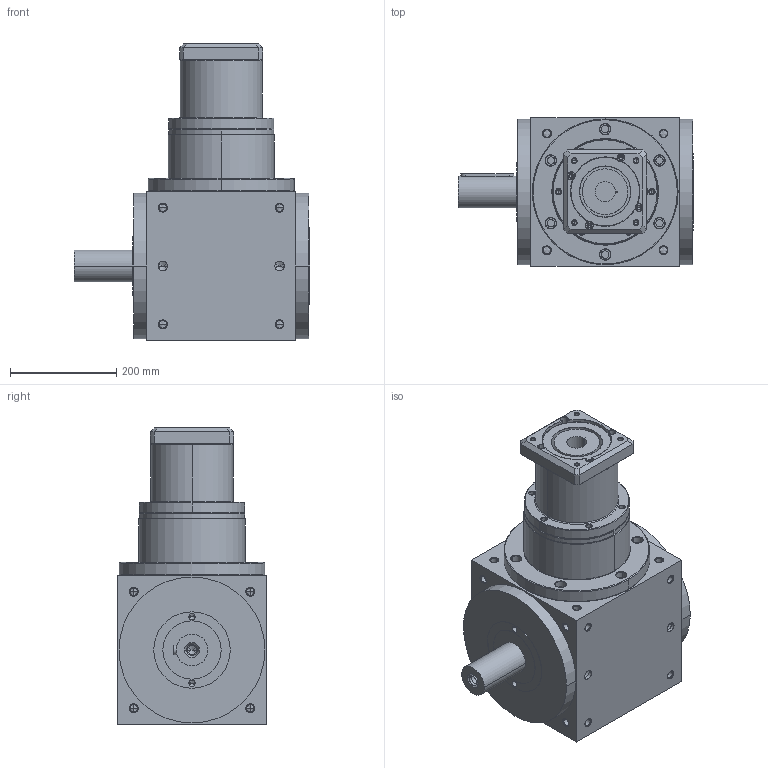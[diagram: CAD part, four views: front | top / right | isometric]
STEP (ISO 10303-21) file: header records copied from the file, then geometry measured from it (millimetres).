
FILE_DESCRIPTION((''),'2;1');
FILE_NAME('ATB280FL12-P0405500201_ASM','2014-07-30T',('d01707'),(''),'PRO/ENGINEER BY PARAMETRIC TECHNOLOGY CORPORATION, 2008410','PRO/ENGINEER BY PARAMETRIC TECHNOLOGY CORPORATION, 2008410','');
FILE_SCHEMA(('CONFIG_CONTROL_DESIGN'));
Length unit declared in the file: millimetre
Products named in the file (5): ATBFL1-HOUSING-2-A; P1820A00001; P0226A00001; P0405500201; ATB280FL12-P0405500201_ASM
Assembly tree (4 placements, depth 2):
  ATB280FL12-P0405500201_ASM
    ATBFL1-HOUSING-2-A
    P1820A00001
    P0226A00001
    P0405500201
Bounding box: 444 x 280 x 559 mm (x, y, z)
Volume: 30171012.9 mm3; surface area: 1171824.6 mm2
Topology: 4 solids, 43 shells, 830 faces, 2021 edges, 1183 vertices
Faces by surface type: cylinder 352, cone 288, plane 118, torus 52, bspline 20
Entity records: 25126 total; most frequent: CARTESIAN_POINT 5690, DIRECTION 4373, ORIENTED_EDGE 3682, EDGE_CURVE 1919, AXIS2_PLACEMENT_3D 1821, VERTEX_POINT 1183, CIRCLE 994, EDGE_LOOP 988
